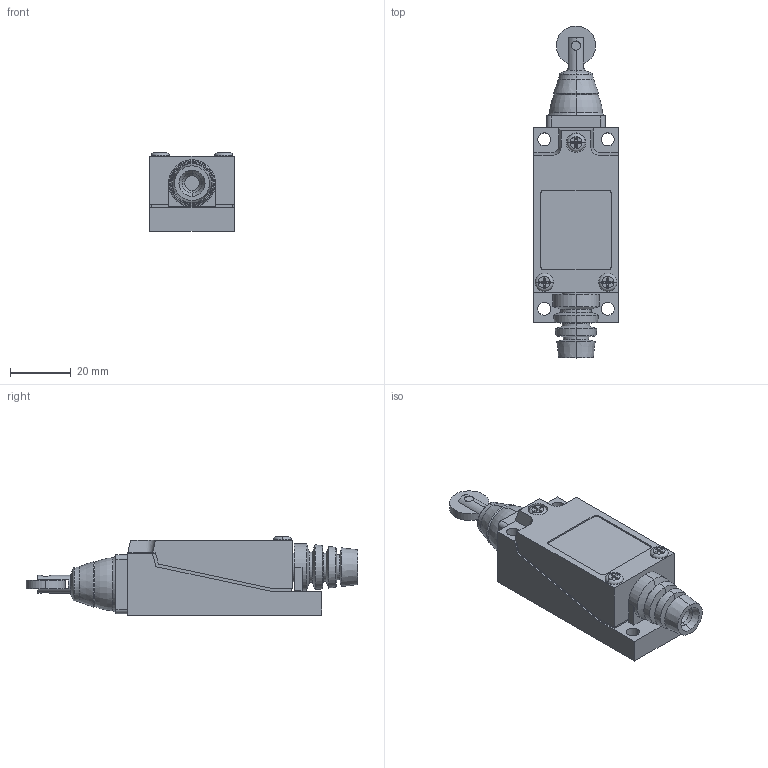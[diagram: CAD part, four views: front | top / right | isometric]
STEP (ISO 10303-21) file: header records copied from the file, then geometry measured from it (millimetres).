
FILE_DESCRIPTION (( 'STEP AP203' ), '1' );
FILE_NAME ('FM8112.STEP', '2018-06-20T16:24:49', ( '' ), ( '' ), 'SwSTEP 2.0', 'SolidWorks 2012', '' );
FILE_SCHEMA (( 'CONFIG_CONTROL_DESIGN' ));
Length unit declared in the file: millimetre
Products named in the file (1): FM8112
Bounding box: 28 x 109.75 x 25.9 mm (x, y, z)
Volume: 45027.9 mm3; surface area: 12001.5 mm2
Topology: 1 solids, 1 shells, 199 faces, 489 edges, 308 vertices
Faces by surface type: plane 97, cylinder 54, cone 32, torus 12, bspline 4
Entity records: 6272 total; most frequent: CARTESIAN_POINT 1403, DIRECTION 1015, ORIENTED_EDGE 978, EDGE_CURVE 489, AXIS2_PLACEMENT_3D 354, VERTEX_POINT 308, LINE 307, VECTOR 307
